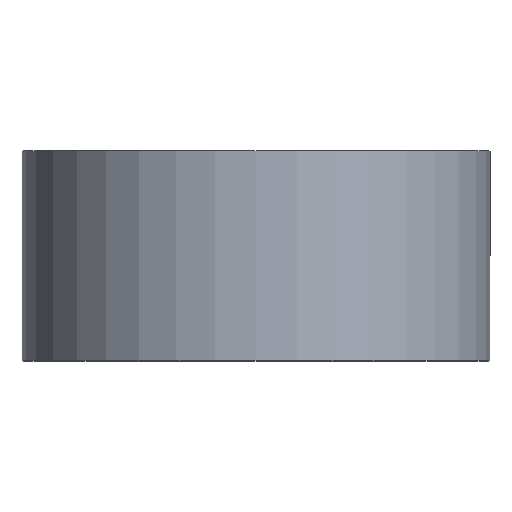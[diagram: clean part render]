
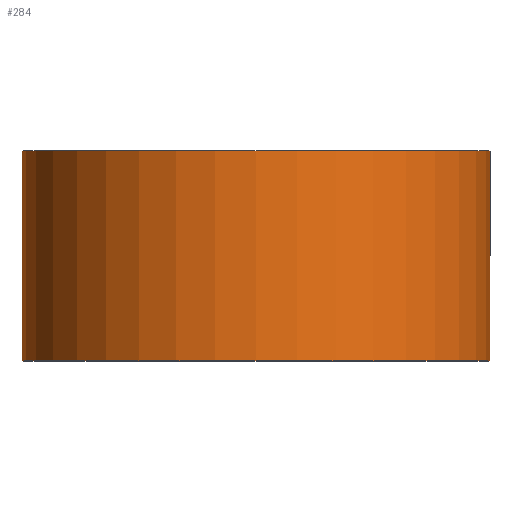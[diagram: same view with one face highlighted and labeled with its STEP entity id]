
A CAD part, top view. The second image highlights one B-rep face of the part: STEP entity #284.
In plain terms, the highlighted cylindrical face has radius 39 mm (diameter 78 mm), a partial arc.
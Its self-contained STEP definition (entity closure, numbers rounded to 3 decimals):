
#2 = ORIENTED_EDGE ( 'NONE', *, *, #217, .F. ) ;
#4 = DIRECTION ( 'NONE',  ( 0., 1., 0. ) ) ;
#5 = EDGE_CURVE ( 'NONE', #292, #129, #105, .T. ) ;
#24 = EDGE_CURVE ( 'NONE', #167, #129, #255, .T. ) ;
#34 = CARTESIAN_POINT ( 'NONE',  ( 39., 35., 0. ) ) ;
#37 = DIRECTION ( 'NONE',  ( 0., 1., 0. ) ) ;
#39 = VECTOR ( 'NONE', #163, 1000. ) ;
#41 = CARTESIAN_POINT ( 'NONE',  ( 39., 0., 0. ) ) ;
#44 = CYLINDRICAL_SURFACE ( 'NONE', #76, 39. ) ;
#46 = ORIENTED_EDGE ( 'NONE', *, *, #5, .F. ) ;
#57 = EDGE_LOOP ( 'NONE', ( #240, #192, #46, #2 ) ) ;
#58 = CARTESIAN_POINT ( 'NONE',  ( 39., 0., 0. ) ) ;
#65 = CIRCLE ( 'NONE', #174, 39. ) ;
#76 = AXIS2_PLACEMENT_3D ( 'NONE', #97, #4, #122 ) ;
#85 = EDGE_CURVE ( 'NONE', #120, #167, #65, .T. ) ;
#91 = VECTOR ( 'NONE', #287, 1000. ) ;
#93 = DIRECTION ( 'NONE',  ( 0., 1., 0. ) ) ;
#97 = CARTESIAN_POINT ( 'NONE',  ( 0., 0., 0. ) ) ;
#105 = CIRCLE ( 'NONE', #116, 39. ) ;
#116 = AXIS2_PLACEMENT_3D ( 'NONE', #193, #93, #175 ) ;
#120 = VERTEX_POINT ( 'NONE', #180 ) ;
#121 = CARTESIAN_POINT ( 'NONE',  ( -39., 35., 0. ) ) ;
#122 = DIRECTION ( 'NONE',  ( -1., 0., 0. ) ) ;
#129 = VERTEX_POINT ( 'NONE', #34 ) ;
#163 = DIRECTION ( 'NONE',  ( 0., 1., 0. ) ) ;
#167 = VERTEX_POINT ( 'NONE', #58 ) ;
#174 = AXIS2_PLACEMENT_3D ( 'NONE', #185, #37, #237 ) ;
#175 = DIRECTION ( 'NONE',  ( -1., 0., 0. ) ) ;
#180 = CARTESIAN_POINT ( 'NONE',  ( -39., 0., 0. ) ) ;
#185 = CARTESIAN_POINT ( 'NONE',  ( 0., 0., 0. ) ) ;
#192 = ORIENTED_EDGE ( 'NONE', *, *, #24, .T. ) ;
#193 = CARTESIAN_POINT ( 'NONE',  ( 0., 35., 0. ) ) ;
#207 = LINE ( 'NONE', #213, #91 ) ;
#213 = CARTESIAN_POINT ( 'NONE',  ( -39., 0., 0. ) ) ;
#216 = FACE_OUTER_BOUND ( 'NONE', #57, .T. ) ;
#217 = EDGE_CURVE ( 'NONE', #120, #292, #207, .T. ) ;
#237 = DIRECTION ( 'NONE',  ( -1., 0., 0. ) ) ;
#240 = ORIENTED_EDGE ( 'NONE', *, *, #85, .T. ) ;
#255 = LINE ( 'NONE', #41, #39 ) ;
#284 = ADVANCED_FACE ( 'NONE', ( #216 ), #44, .T. ) ;
#287 = DIRECTION ( 'NONE',  ( 0., 1., 0. ) ) ;
#292 = VERTEX_POINT ( 'NONE', #121 ) ;
